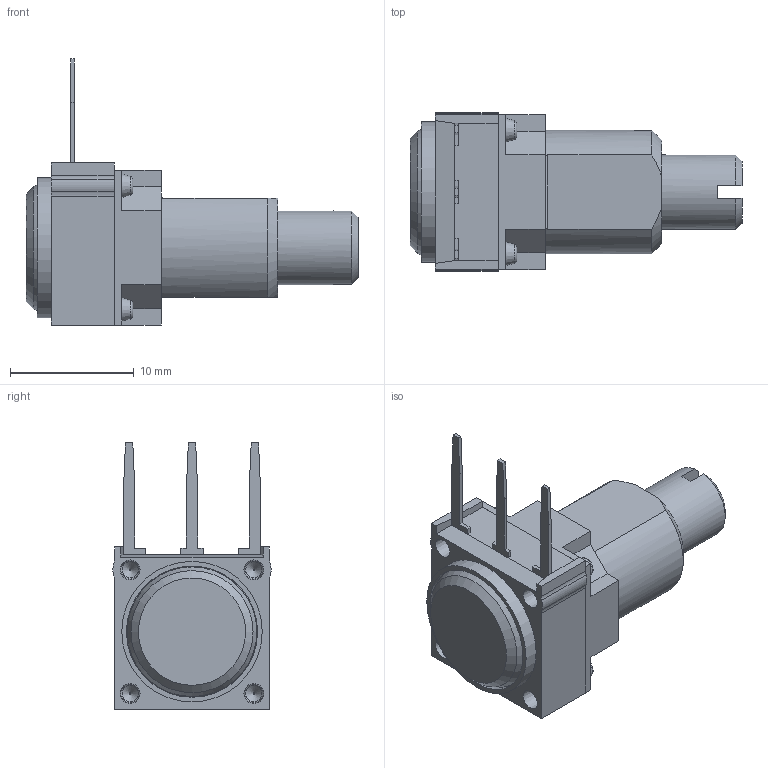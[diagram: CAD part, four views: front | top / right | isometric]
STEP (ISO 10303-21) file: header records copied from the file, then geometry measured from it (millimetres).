
FILE_DESCRIPTION(/* description */ ('Unknown'),/* implementation_level */ '2;1');
FILE_NAME(/* name */ 'P11L-VISHAY',/* time_stamp */ '2018-04-03T15:26:22+02:00',/* author */ ('Unknown'),/* organization */ ('Unknown'),/* preprocessor_version */ 'ST-DEVELOPER v16.7',/* originating_system */ 'DEX',/* authorisation */ $);
FILE_SCHEMA (('AUTOMOTIVE_DESIGN {1 0 10303 214 3 1 1}'));
Length unit declared in the file: millimetre
Products named in the file (1): P11L-VISHAY
Bounding box: 26.83 x 12.79 x 21.5 mm (x, y, z)
Volume: 2279.8 mm3; surface area: 3285.1 mm2
Topology: 9 solids, 9 shells, 576 faces, 1497 edges, 983 vertices
Faces by surface type: plane 376, cylinder 120, cone 50, bspline 19, torus 11
Full cylindrical faces by diameter (mm): 1.3 x4, 1.5 x8, 1.55 x4, 3.97 x1, 4 x2, 4.1 x1, 5.25 x2, 5.6 x2, 6 x3, 6.4 x2, 7.42 x1, 7.44 x1, 8.4 x1, 9 x1, 9.65 x1, 10.6 x1, 11.35 x1
Entity records: 18099 total; most frequent: CARTESIAN_POINT 3665, DIRECTION 2884, ORIENTED_EDGE 2784, EDGE_CURVE 1392, AXIS2_PLACEMENT_3D 991, VERTEX_POINT 949, LINE 902, VECTOR 902
